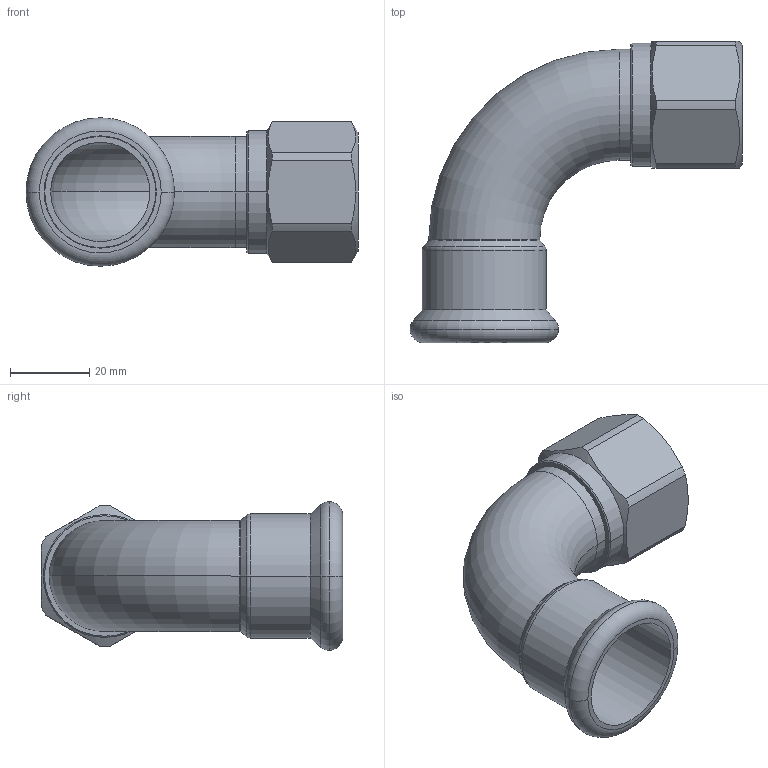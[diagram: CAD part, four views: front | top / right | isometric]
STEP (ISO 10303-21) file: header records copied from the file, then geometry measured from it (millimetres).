
FILE_DESCRIPTION(('CoCreate Modeling STEP Export'),'2;1');
FILE_NAME('C1438 28xRp1-2.stp','2014-11-12T16:37:08',(''),(''),'CoCreate Modeling STEP processor for AP214 (Solid Model)','CoCreate Modeling 17.00A 17-Jun-2010 (C) Parametric Technology GmbH','');
FILE_SCHEMA(('AUTOMOTIVE_DESIGN { 1 0 10303 214 1 1 1 1 }'));
Length unit declared in the file: millimetre
Products named in the file (2): C1438_28xRp1-2
Assembly tree (1 placements, depth 2):
  C1438_28xRp1-2
    C1438_28xRp1-2
Bounding box: 83.72 x 76 x 37.45 mm (x, y, z)
Volume: 27239 mm3; surface area: 20873.5 mm2
Topology: 1 solids, 1 shells, 65 faces, 145 edges, 87 vertices
Faces by surface type: cylinder 24, cone 18, plane 13, torus 10
Entity records: 2382 total; most frequent: CARTESIAN_POINT 1108, ORIENTED_EDGE 290, DIRECTION 210, EDGE_CURVE 145, VERTEX_POINT 87, AXIS2_PLACEMENT_3D 81, EDGE_LOOP 72, FACE_OUTER_BOUND 65
